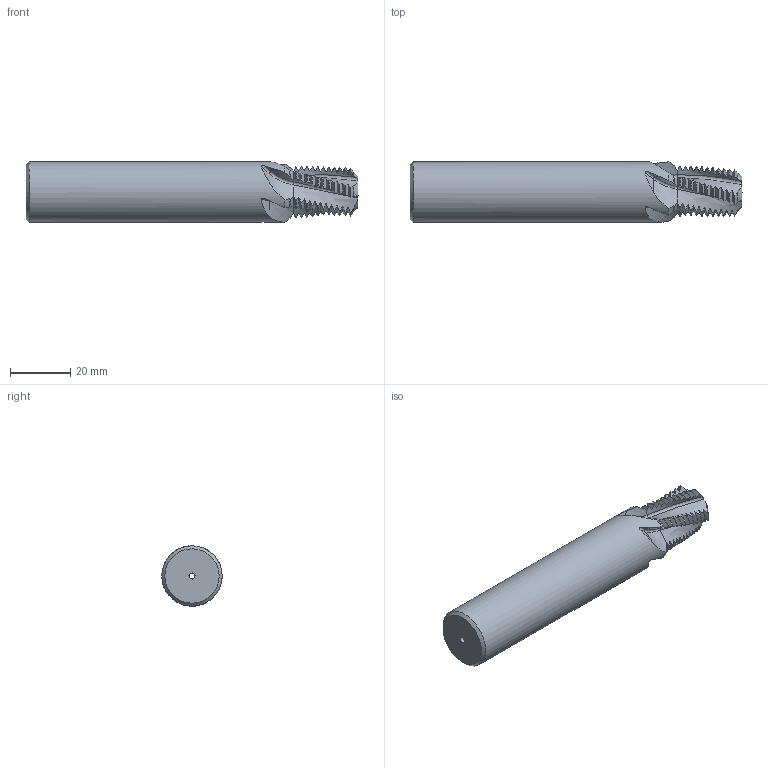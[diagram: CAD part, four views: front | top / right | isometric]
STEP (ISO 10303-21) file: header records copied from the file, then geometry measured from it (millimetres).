
FILE_DESCRIPTION(/* description */ (''),/* implementation_level */ '2;1');
FILE_NAME(/* name */ '171611-00036541-STEP',/* time_stamp */ '2024-02-21T13:16:20+01:00',/* author */ (''),/* organization */ (''),/* preprocessor_version */ 'ST-DEVELOPER v16.5',/* originating_system */ 'HiCAD 2017 2201.0 Build 268',/* authorisation */ '');
FILE_SCHEMA (('AUTOMOTIVE_DESIGN { 1 0 10303 214 1 1 1 1 }'));
Products named in the file (2): Root; ROTATIONSTEIL_0
Assembly tree (1 placements, depth 2):
  Root
    ROTATIONSTEIL_0
Bounding box: 110 x 20 x 20 mm (x, y, z)
Volume: 29064.9 mm3; surface area: 8313 mm2
Topology: 1 solids, 1 shells, 300 faces, 987 edges, 689 vertices
Faces by surface type: cone 131, torus 115, bspline 45, cylinder 7, plane 2
Full cylindrical faces by diameter (mm): 2 x1, 20 x1
Entity records: 41812 total; most frequent: CARTESIAN_POINT 25347, PRESENTATION_STYLE_ASSIGNMENT 1965, COLOUR_RGB 1965, DRAUGHTING_PRE_DEFINED_CURVE_FONT 1964, CURVE_STYLE 1964, OVER_RIDING_STYLED_ITEM 1964, ORIENTED_EDGE 1964, DIRECTION 1034
